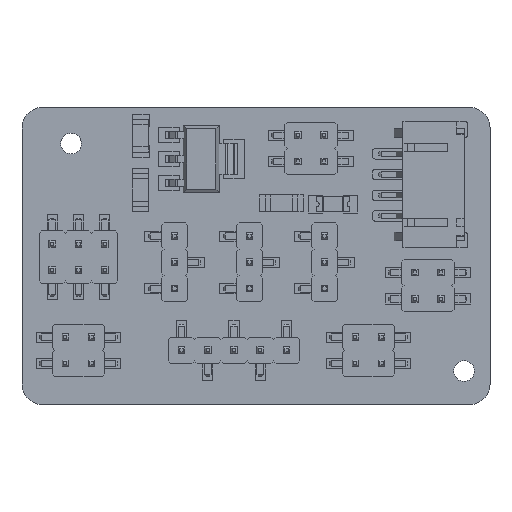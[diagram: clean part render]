
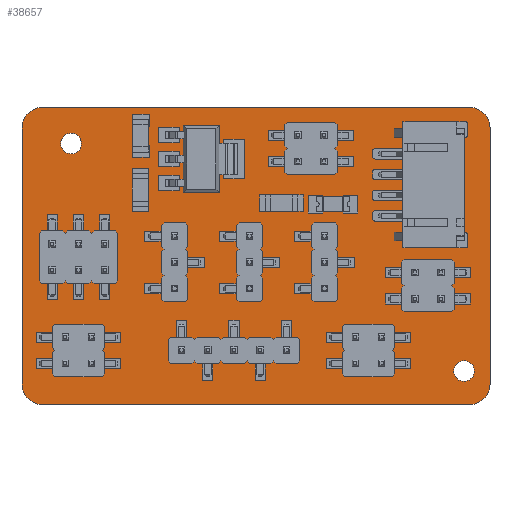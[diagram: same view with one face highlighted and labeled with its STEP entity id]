
A CAD part, top view. The second image highlights one B-rep face of the part: STEP entity #38657.
In plain terms, the highlighted planar face has unit normal (0, 0, 1).
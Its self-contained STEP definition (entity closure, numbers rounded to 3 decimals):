
#38320 = VERTEX_POINT('',#38321);
#38321 = CARTESIAN_POINT('',(185.25,-83.5,1.51));
#38327 = EDGE_CURVE('',#38320,#38328,#38330,.T.);
#38328 = VERTEX_POINT('',#38329);
#38329 = CARTESIAN_POINT('',(187.25,-85.5,1.51));
#38330 = CIRCLE('',#38331,2.);
#38331 = AXIS2_PLACEMENT_3D('',#38332,#38333,#38334);
#38332 = CARTESIAN_POINT('',(185.25,-85.5,1.51));
#38333 = DIRECTION('',(0.,0.,-1.));
#38334 = DIRECTION('',(0.,1.,0.));
#38360 = EDGE_CURVE('',#38328,#38361,#38363,.T.);
#38361 = VERTEX_POINT('',#38362);
#38362 = CARTESIAN_POINT('',(187.25,-110.25,1.51));
#38363 = LINE('',#38364,#38365);
#38364 = CARTESIAN_POINT('',(187.25,-85.5,1.51));
#38365 = VECTOR('',#38366,1.);
#38366 = DIRECTION('',(0.,-1.,0.));
#38391 = EDGE_CURVE('',#38361,#38392,#38394,.T.);
#38392 = VERTEX_POINT('',#38393);
#38393 = CARTESIAN_POINT('',(185.25,-112.25,1.51));
#38394 = CIRCLE('',#38395,2.);
#38395 = AXIS2_PLACEMENT_3D('',#38396,#38397,#38398);
#38396 = CARTESIAN_POINT('',(185.25,-110.25,1.51));
#38397 = DIRECTION('',(0.,0.,-1.));
#38398 = DIRECTION('',(1.,0.,0.));
#38424 = EDGE_CURVE('',#38392,#38425,#38427,.T.);
#38425 = VERTEX_POINT('',#38426);
#38426 = CARTESIAN_POINT('',(144.,-112.25,1.51));
#38427 = LINE('',#38428,#38429);
#38428 = CARTESIAN_POINT('',(185.25,-112.25,1.51));
#38429 = VECTOR('',#38430,1.);
#38430 = DIRECTION('',(-1.,0.,0.));
#38455 = EDGE_CURVE('',#38425,#38456,#38458,.T.);
#38456 = VERTEX_POINT('',#38457);
#38457 = CARTESIAN_POINT('',(142.,-110.25,1.51));
#38458 = CIRCLE('',#38459,2.);
#38459 = AXIS2_PLACEMENT_3D('',#38460,#38461,#38462);
#38460 = CARTESIAN_POINT('',(144.,-110.25,1.51));
#38461 = DIRECTION('',(0.,0.,-1.));
#38462 = DIRECTION('',(0.,-1.,0.));
#38488 = EDGE_CURVE('',#38456,#38489,#38491,.T.);
#38489 = VERTEX_POINT('',#38490);
#38490 = CARTESIAN_POINT('',(142.,-85.5,1.51));
#38491 = LINE('',#38492,#38493);
#38492 = CARTESIAN_POINT('',(142.,-110.25,1.51));
#38493 = VECTOR('',#38494,1.);
#38494 = DIRECTION('',(0.,1.,0.));
#38519 = EDGE_CURVE('',#38489,#38520,#38522,.T.);
#38520 = VERTEX_POINT('',#38521);
#38521 = CARTESIAN_POINT('',(144.,-83.5,1.51));
#38522 = CIRCLE('',#38523,2.);
#38523 = AXIS2_PLACEMENT_3D('',#38524,#38525,#38526);
#38524 = CARTESIAN_POINT('',(144.,-85.5,1.51));
#38525 = DIRECTION('',(0.,0.,-1.));
#38526 = DIRECTION('',(-1.,0.,-0.));
#38552 = EDGE_CURVE('',#38520,#38320,#38553,.T.);
#38553 = LINE('',#38554,#38555);
#38554 = CARTESIAN_POINT('',(144.,-83.5,1.51));
#38555 = VECTOR('',#38556,1.);
#38556 = DIRECTION('',(1.,0.,0.));
#38576 = VERTEX_POINT('',#38577);
#38577 = CARTESIAN_POINT('',(185.75,-109.,1.51));
#38583 = EDGE_CURVE('',#38576,#38576,#38584,.T.);
#38584 = CIRCLE('',#38585,1.);
#38585 = AXIS2_PLACEMENT_3D('',#38586,#38587,#38588);
#38586 = CARTESIAN_POINT('',(184.75,-109.,1.51));
#38587 = DIRECTION('',(0.,0.,1.));
#38588 = DIRECTION('',(1.,0.,-0.));
#38609 = VERTEX_POINT('',#38610);
#38610 = CARTESIAN_POINT('',(147.75,-87.,1.51));
#38616 = EDGE_CURVE('',#38609,#38609,#38617,.T.);
#38617 = CIRCLE('',#38618,1.);
#38618 = AXIS2_PLACEMENT_3D('',#38619,#38620,#38621);
#38619 = CARTESIAN_POINT('',(146.75,-87.,1.51));
#38620 = DIRECTION('',(0.,0.,1.));
#38621 = DIRECTION('',(1.,0.,-0.));
#38657 = ADVANCED_FACE('',(#38658,#38668,#38671),#38674,.T.);
#38658 = FACE_BOUND('',#38659,.F.);
#38659 = EDGE_LOOP('',(#38660,#38661,#38662,#38663,#38664,#38665,#38666,
    #38667));
#38660 = ORIENTED_EDGE('',*,*,#38327,.T.);
#38661 = ORIENTED_EDGE('',*,*,#38360,.T.);
#38662 = ORIENTED_EDGE('',*,*,#38391,.T.);
#38663 = ORIENTED_EDGE('',*,*,#38424,.T.);
#38664 = ORIENTED_EDGE('',*,*,#38455,.T.);
#38665 = ORIENTED_EDGE('',*,*,#38488,.T.);
#38666 = ORIENTED_EDGE('',*,*,#38519,.T.);
#38667 = ORIENTED_EDGE('',*,*,#38552,.T.);
#38668 = FACE_BOUND('',#38669,.F.);
#38669 = EDGE_LOOP('',(#38670));
#38670 = ORIENTED_EDGE('',*,*,#38583,.T.);
#38671 = FACE_BOUND('',#38672,.F.);
#38672 = EDGE_LOOP('',(#38673));
#38673 = ORIENTED_EDGE('',*,*,#38616,.T.);
#38674 = PLANE('',#38675);
#38675 = AXIS2_PLACEMENT_3D('',#38676,#38677,#38678);
#38676 = CARTESIAN_POINT('',(0.,0.,1.51));
#38677 = DIRECTION('',(0.,0.,1.));
#38678 = DIRECTION('',(1.,0.,-0.));
